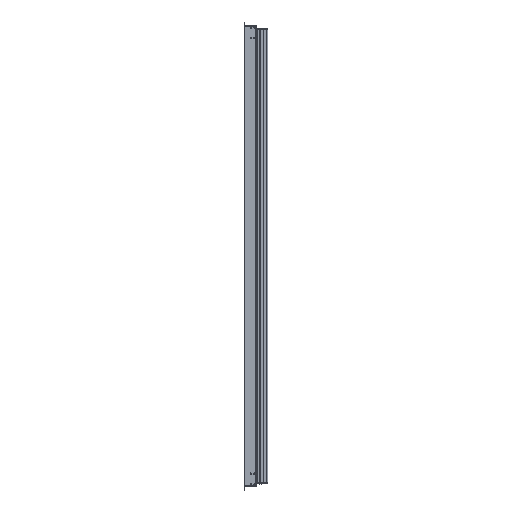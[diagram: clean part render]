
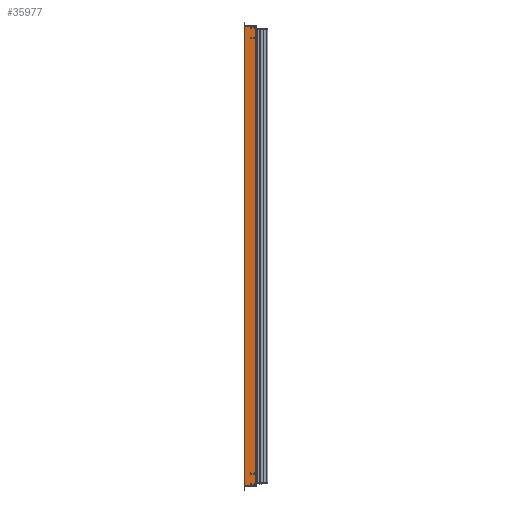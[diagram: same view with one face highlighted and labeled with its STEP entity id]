
A CAD part, left-side view. The second image highlights one B-rep face of the part: STEP entity #35977.
In plain terms, the highlighted planar face has unit normal (-1, 0, 0).
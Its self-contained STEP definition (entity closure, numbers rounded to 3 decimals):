
#257 = FACE_BOUND ( 'NONE', #31343, .T. ) ;
#560 = FACE_BOUND ( 'NONE', #22525, .T. ) ;
#727 = VECTOR ( 'NONE', #32900, 1000. ) ;
#880 = FACE_BOUND ( 'NONE', #2237, .T. ) ;
#1790 = VECTOR ( 'NONE', #30456, 1000. ) ;
#2237 = EDGE_LOOP ( 'NONE', ( #60211 ) ) ;
#2896 = ORIENTED_EDGE ( 'NONE', *, *, #56261, .T. ) ;
#3060 = EDGE_CURVE ( 'NONE', #59518, #59518, #11859, .T. ) ;
#4933 = DIRECTION ( 'NONE',  ( 0., 0., 1. ) ) ;
#5048 = CIRCLE ( 'NONE', #13212, 2.959 ) ;
#5660 = DIRECTION ( 'NONE',  ( 0., -1., 0. ) ) ;
#6139 = VECTOR ( 'NONE', #53094, 1000. ) ;
#6283 = CARTESIAN_POINT ( 'NONE',  ( -282.686, -12.475, -885.79 ) ) ;
#6316 = AXIS2_PLACEMENT_3D ( 'NONE', #48499, #44038, #22773 ) ;
#6418 = CARTESIAN_POINT ( 'NONE',  ( -282.686, 3.095, 920.188 ) ) ;
#7255 = DIRECTION ( 'NONE',  ( -1., 0., 0. ) ) ;
#7566 = EDGE_LOOP ( 'NONE', ( #49968 ) ) ;
#8294 = VERTEX_POINT ( 'NONE', #44692 ) ;
#10457 = FACE_BOUND ( 'NONE', #55301, .T. ) ;
#11679 = AXIS2_PLACEMENT_3D ( 'NONE', #36800, #41273, #56263 ) ;
#11859 = CIRCLE ( 'NONE', #47508, 2.959 ) ;
#13212 = AXIS2_PLACEMENT_3D ( 'NONE', #45316, #31260, #44674 ) ;
#13301 = CARTESIAN_POINT ( 'NONE',  ( -282.686, -12.475, 920.188 ) ) ;
#13751 = CARTESIAN_POINT ( 'NONE',  ( -282.686, 27.181, -938.66 ) ) ;
#14031 = CARTESIAN_POINT ( 'NONE',  ( -282.686, 3.095, -930.113 ) ) ;
#14182 = LINE ( 'NONE', #33626, #6139 ) ;
#14276 = PLANE ( 'NONE',  #41305 ) ;
#14526 = CARTESIAN_POINT ( 'NONE',  ( -282.686, 27.181, 970.099 ) ) ;
#15536 = FACE_BOUND ( 'NONE', #7566, .T. ) ;
#17843 = DIRECTION ( 'NONE',  ( -1., 0., 0. ) ) ;
#18419 = CARTESIAN_POINT ( 'NONE',  ( -282.686, 3.095, 923.147 ) ) ;
#19373 = FACE_BOUND ( 'NONE', #19996, .T. ) ;
#19635 = EDGE_LOOP ( 'NONE', ( #29184 ) ) ;
#19692 = FACE_BOUND ( 'NONE', #19635, .T. ) ;
#19996 = EDGE_LOOP ( 'NONE', ( #48670 ) ) ;
#20083 = EDGE_CURVE ( 'NONE', #8294, #28903, #38737, .T. ) ;
#20764 = VERTEX_POINT ( 'NONE', #52264 ) ;
#20771 = DIRECTION ( 'NONE',  ( -1., 0., 0. ) ) ;
#21591 = AXIS2_PLACEMENT_3D ( 'NONE', #13301, #7255, #22548 ) ;
#21669 = ORIENTED_EDGE ( 'NONE', *, *, #51700, .T. ) ;
#22525 = EDGE_LOOP ( 'NONE', ( #50874 ) ) ;
#22548 = DIRECTION ( 'NONE',  ( 0., 0., 1. ) ) ;
#22773 = DIRECTION ( 'NONE',  ( 0., 0., 1. ) ) ;
#22897 = VERTEX_POINT ( 'NONE', #56101 ) ;
#23840 = CIRCLE ( 'NONE', #11679, 2.959 ) ;
#24389 = LINE ( 'NONE', #14526, #1790 ) ;
#26028 = VERTEX_POINT ( 'NONE', #6283 ) ;
#27191 = CARTESIAN_POINT ( 'NONE',  ( -282.686, 3.095, 967.47 ) ) ;
#27422 = EDGE_CURVE ( 'NONE', #43353, #43353, #49093, .T. ) ;
#27719 = DIRECTION ( 'NONE',  ( 0., 0., 1. ) ) ;
#27969 = DIRECTION ( 'NONE',  ( 0., 0., 1. ) ) ;
#28047 = CARTESIAN_POINT ( 'NONE',  ( -282.686, 3.095, -885.79 ) ) ;
#28112 = DIRECTION ( 'NONE',  ( 0., 0., 1. ) ) ;
#28568 = EDGE_CURVE ( 'NONE', #42726, #42726, #35848, .T. ) ;
#28903 = VERTEX_POINT ( 'NONE', #60539 ) ;
#28904 = DIRECTION ( 'NONE',  ( -1., 0., 0. ) ) ;
#28983 = CARTESIAN_POINT ( 'NONE',  ( -282.686, -12.475, 923.147 ) ) ;
#29184 = ORIENTED_EDGE ( 'NONE', *, *, #42827, .F. ) ;
#29244 = DIRECTION ( 'NONE',  ( -1., 0., 0. ) ) ;
#30456 = DIRECTION ( 'NONE',  ( 0., -1., 0. ) ) ;
#31260 = DIRECTION ( 'NONE',  ( -1., 0., 0. ) ) ;
#31343 = EDGE_LOOP ( 'NONE', ( #42368 ) ) ;
#32833 = CARTESIAN_POINT ( 'NONE',  ( -282.686, 3.095, -888.749 ) ) ;
#32900 = DIRECTION ( 'NONE',  ( 0., -1., 0. ) ) ;
#33626 = CARTESIAN_POINT ( 'NONE',  ( -282.686, -18.444, -938.66 ) ) ;
#33767 = EDGE_LOOP ( 'NONE', ( #37278 ) ) ;
#33795 = CIRCLE ( 'NONE', #6316, 2.959 ) ;
#35848 = CIRCLE ( 'NONE', #56190, 2.959 ) ;
#35977 = ADVANCED_FACE ( 'NONE', ( #10457, #15536, #257, #19692, #560, #19373, #880, #48727, #39462 ), #14276, .T. ) ;
#36474 = VERTEX_POINT ( 'NONE', #27191 ) ;
#36800 = CARTESIAN_POINT ( 'NONE',  ( -282.686, 3.095, 964.511 ) ) ;
#37278 = ORIENTED_EDGE ( 'NONE', *, *, #28568, .F. ) ;
#37363 = LINE ( 'NONE', #13751, #727 ) ;
#37669 = EDGE_CURVE ( 'NONE', #28903, #20764, #24389, .T. ) ;
#37893 = VERTEX_POINT ( 'NONE', #18419 ) ;
#38538 = CARTESIAN_POINT ( 'NONE',  ( -282.686, -18.444, -938.66 ) ) ;
#38737 = LINE ( 'NONE', #58514, #45374 ) ;
#39210 = VERTEX_POINT ( 'NONE', #14031 ) ;
#39272 = DIRECTION ( 'NONE',  ( 0., 0., 1. ) ) ;
#39462 = FACE_OUTER_BOUND ( 'NONE', #55791, .T. ) ;
#41273 = DIRECTION ( 'NONE',  ( -1., 0., 0. ) ) ;
#41305 = AXIS2_PLACEMENT_3D ( 'NONE', #44566, #29244, #5660 ) ;
#42368 = ORIENTED_EDGE ( 'NONE', *, *, #54065, .F. ) ;
#42593 = AXIS2_PLACEMENT_3D ( 'NONE', #57326, #28904, #27969 ) ;
#42726 = VERTEX_POINT ( 'NONE', #28047 ) ;
#42827 = EDGE_CURVE ( 'NONE', #36474, #36474, #23840, .T. ) ;
#43353 = VERTEX_POINT ( 'NONE', #28983 ) ;
#44038 = DIRECTION ( 'NONE',  ( -1., 0., 0. ) ) ;
#44566 = CARTESIAN_POINT ( 'NONE',  ( -282.686, 27.181, -938.66 ) ) ;
#44674 = DIRECTION ( 'NONE',  ( 0., 0., 1. ) ) ;
#44692 = CARTESIAN_POINT ( 'NONE',  ( -282.686, 27.181, -938.66 ) ) ;
#45316 = CARTESIAN_POINT ( 'NONE',  ( -282.686, 3.095, -933.072 ) ) ;
#45374 = VECTOR ( 'NONE', #4933, 1000. ) ;
#45675 = CIRCLE ( 'NONE', #42593, 2.959 ) ;
#46626 = CIRCLE ( 'NONE', #62895, 2.959 ) ;
#47508 = AXIS2_PLACEMENT_3D ( 'NONE', #53321, #62255, #28112 ) ;
#47917 = ORIENTED_EDGE ( 'NONE', *, *, #20083, .F. ) ;
#48147 = ORIENTED_EDGE ( 'NONE', *, *, #3060, .F. ) ;
#48499 = CARTESIAN_POINT ( 'NONE',  ( -282.686, -12.475, -888.749 ) ) ;
#48539 = EDGE_CURVE ( 'NONE', #39210, #39210, #5048, .T. ) ;
#48670 = ORIENTED_EDGE ( 'NONE', *, *, #59029, .F. ) ;
#48727 = FACE_BOUND ( 'NONE', #33767, .T. ) ;
#49093 = CIRCLE ( 'NONE', #21591, 2.959 ) ;
#49968 = ORIENTED_EDGE ( 'NONE', *, *, #27422, .F. ) ;
#50360 = ORIENTED_EDGE ( 'NONE', *, *, #37669, .F. ) ;
#50874 = ORIENTED_EDGE ( 'NONE', *, *, #54630, .F. ) ;
#51700 = EDGE_CURVE ( 'NONE', #8294, #52265, #37363, .T. ) ;
#52264 = CARTESIAN_POINT ( 'NONE',  ( -282.686, -18.444, 970.099 ) ) ;
#52265 = VERTEX_POINT ( 'NONE', #38538 ) ;
#53094 = DIRECTION ( 'NONE',  ( 0., 0., 1. ) ) ;
#53321 = CARTESIAN_POINT ( 'NONE',  ( -282.686, -12.475, 964.511 ) ) ;
#54065 = EDGE_CURVE ( 'NONE', #37893, #37893, #46626, .T. ) ;
#54630 = EDGE_CURVE ( 'NONE', #22897, #22897, #45675, .T. ) ;
#55301 = EDGE_LOOP ( 'NONE', ( #48147 ) ) ;
#55791 = EDGE_LOOP ( 'NONE', ( #50360, #47917, #21669, #2896 ) ) ;
#56101 = CARTESIAN_POINT ( 'NONE',  ( -282.686, -12.475, -930.113 ) ) ;
#56190 = AXIS2_PLACEMENT_3D ( 'NONE', #32833, #17843, #27719 ) ;
#56261 = EDGE_CURVE ( 'NONE', #52265, #20764, #14182, .T. ) ;
#56263 = DIRECTION ( 'NONE',  ( 0., 0., 1. ) ) ;
#57326 = CARTESIAN_POINT ( 'NONE',  ( -282.686, -12.475, -933.072 ) ) ;
#58514 = CARTESIAN_POINT ( 'NONE',  ( -282.686, 27.181, -938.66 ) ) ;
#59029 = EDGE_CURVE ( 'NONE', #26028, #26028, #33795, .T. ) ;
#59518 = VERTEX_POINT ( 'NONE', #60159 ) ;
#60159 = CARTESIAN_POINT ( 'NONE',  ( -282.686, -12.475, 967.47 ) ) ;
#60211 = ORIENTED_EDGE ( 'NONE', *, *, #48539, .F. ) ;
#60539 = CARTESIAN_POINT ( 'NONE',  ( -282.686, 27.181, 970.099 ) ) ;
#62255 = DIRECTION ( 'NONE',  ( -1., 0., 0. ) ) ;
#62895 = AXIS2_PLACEMENT_3D ( 'NONE', #6418, #20771, #39272 ) ;
